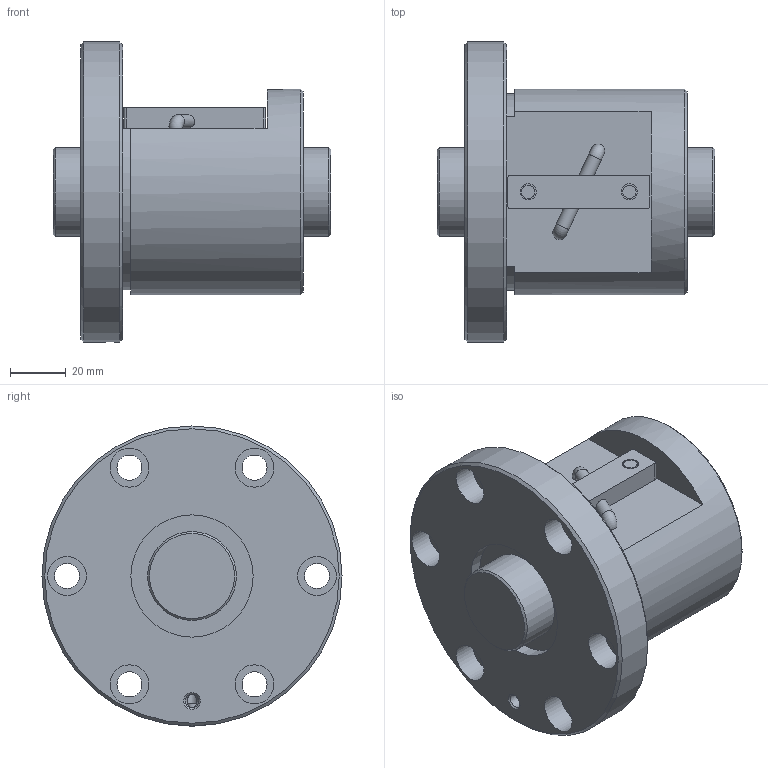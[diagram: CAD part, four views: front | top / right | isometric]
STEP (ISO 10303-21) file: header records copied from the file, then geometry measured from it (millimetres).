
FILE_DESCRIPTION(/* description */ ('STEP AP203'),/* implementation_level */ '2;1');
FILE_NAME(/* name */ 'BNF3210V-3.5RRG1+100LC0_000_rev',/* time_stamp */ '2024-08-06T08:37:45+02:00',/* author */ ('License CC BY-ND 4.0'),/* organization */ ('CADENAS'),/* preprocessor_version */ 'ST-DEVELOPER v19.3',/* originating_system */ 'PARTsolutions',/* authorisation */ ' ');
FILE_SCHEMA (('CONFIG_CONTROL_DESIGN'));
Length unit declared in the file: millimetre
Products named in the file (3): BNF3210V-3.5RRG1+100LC0_000_rev; BNF 3210A-3.5RR000 Shaft; BNF 3210A-3.5RR Nut
Assembly tree (2 placements, depth 2):
  BNF3210V-3.5RRG1+100LC0_000_rev
    BNF 3210A-3.5RR000 Shaft
    BNF 3210A-3.5RR Nut
Bounding box: 100 x 108 x 108 mm (x, y, z)
Volume: 389786.6 mm3; surface area: 61998.2 mm2
Topology: 2 solids, 2 shells, 69 faces, 148 edges, 96 vertices
Faces by surface type: cylinder 33, plane 27, cone 7, torus 2
Full cylindrical faces by diameter (mm): 3.75 x2, 4.8 x2, 4.917 x1, 4.931 x2, 5.8 x2, 9 x6, 14 x6, 32 x2, 44 x2, 74 x1, 108 x1
Entity records: 1757 total; most frequent: DIRECTION 312, CARTESIAN_POINT 298, ORIENTED_EDGE 200, AXIS2_PLACEMENT_3D 144, EDGE_LOOP 140, FACE_BOUND 140, EDGE_CURVE 100, VERTEX_POINT 86
